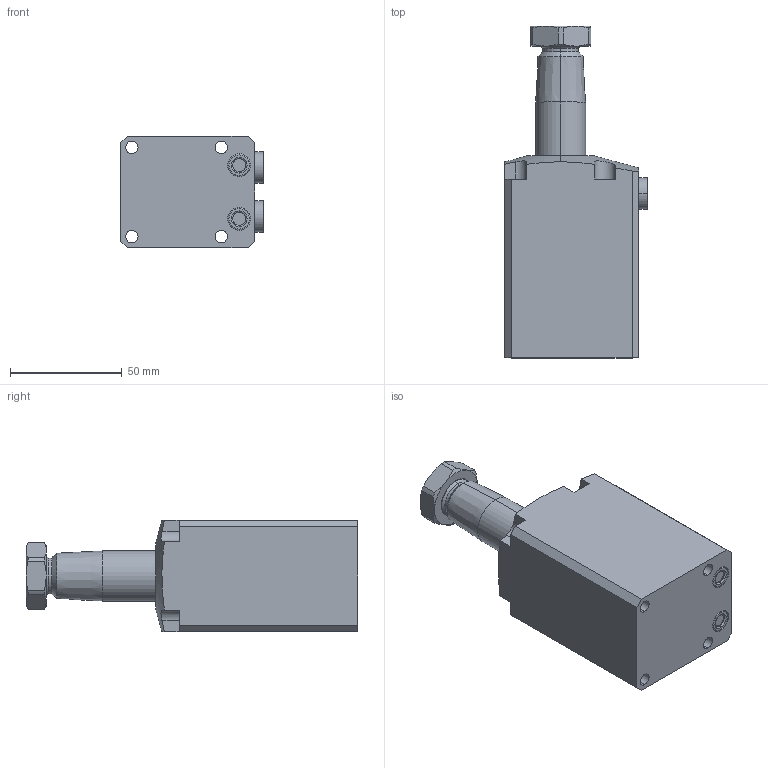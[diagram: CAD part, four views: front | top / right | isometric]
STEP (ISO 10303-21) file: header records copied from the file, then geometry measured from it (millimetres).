
FILE_DESCRIPTION(/* description */ (''),/* implementation_level */ '2;1');
FILE_NAME(/* name */ 'BRC04-R.stp',/* time_stamp */ '2025-01-04T14:01:36+08:00',/* author */ (''),/* organization */ (''),/* preprocessor_version */ 'ST-DEVELOPER v16.7',/* originating_system */ 'SIEMENS PLM Software NX 12.0',/* authorisation */ '');
FILE_SCHEMA (('AUTOMOTIVE_DESIGN { 1 0 10303 214 3 1 1 1 }'));
Length unit declared in the file: millimetre
Products named in the file (5): BRC04-R-04; BRC04-R-03; BRC04-R-02; BRC04-R-01; BTU04-R_step
Assembly tree (5 placements, depth 2):
  BTU04-R_step
    BRC04-R-01
    BRC04-R-02
    BRC04-R-03  x2
    BRC04-R-04
Bounding box: 63.8 x 148.5 x 50 mm (x, y, z)
Volume: 269565.7 mm3; surface area: 40701 mm2
Topology: 7 solids, 7 shells, 176 faces, 401 edges, 248 vertices
Faces by surface type: plane 68, cylinder 57, cone 34, torus 16, sphere 1
Full cylindrical faces by diameter (mm): 8.5 x2
Entity records: 4666 total; most frequent: CARTESIAN_POINT 963, DIRECTION 778, ORIENTED_EDGE 712, EDGE_CURVE 356, AXIS2_PLACEMENT_3D 313, VERTEX_POINT 222, EDGE_LOOP 180, ADVANCED_FACE 156
